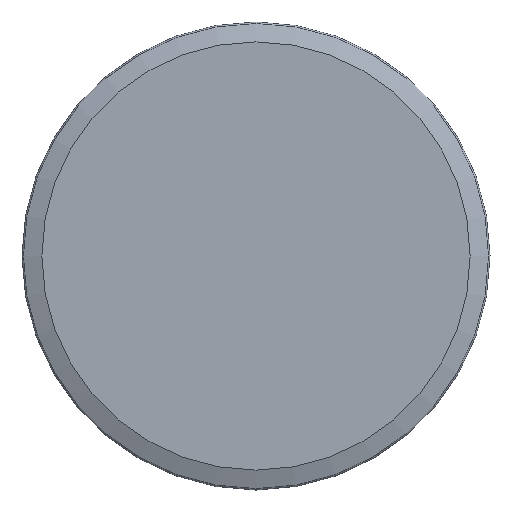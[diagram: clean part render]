
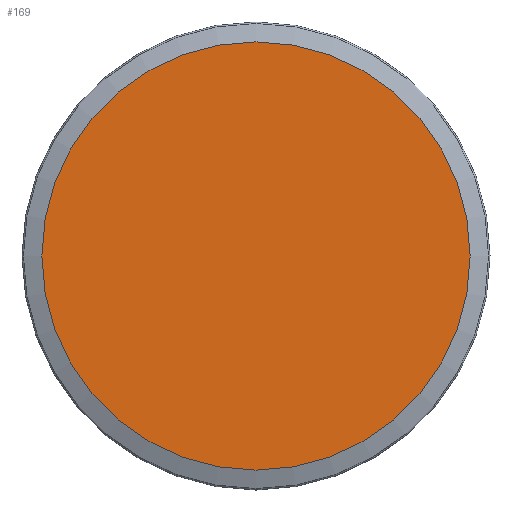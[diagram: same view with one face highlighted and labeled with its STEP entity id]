
A CAD part, left-side view. The second image highlights one B-rep face of the part: STEP entity #169.
In plain terms, the highlighted planar face has unit normal (-1, 0, 0).
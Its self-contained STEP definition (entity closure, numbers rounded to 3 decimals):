
#28=PLANE('',#207);
#32=FACE_OUTER_BOUND('',#43,.T.);
#43=EDGE_LOOP('',(#113));
#57=CIRCLE('',#208,70.906);
#74=VERTEX_POINT('',#305);
#89=EDGE_CURVE('',#74,#74,#57,.T.);
#113=ORIENTED_EDGE('',*,*,#89,.F.);
#169=ADVANCED_FACE('',(#32),#28,.F.);
#207=AXIS2_PLACEMENT_3D('',#304,#244,#245);
#208=AXIS2_PLACEMENT_3D('',#306,#246,#247);
#244=DIRECTION('center_axis',(1.,0.,0.));
#245=DIRECTION('ref_axis',(0.,0.,1.));
#246=DIRECTION('center_axis',(1.,0.,0.));
#247=DIRECTION('ref_axis',(0.,0.,1.));
#304=CARTESIAN_POINT('Origin',(-46.85,5.069,0.));
#305=CARTESIAN_POINT('',(-46.85,5.069,-70.906));
#306=CARTESIAN_POINT('Origin',(-46.85,5.069,0.));
